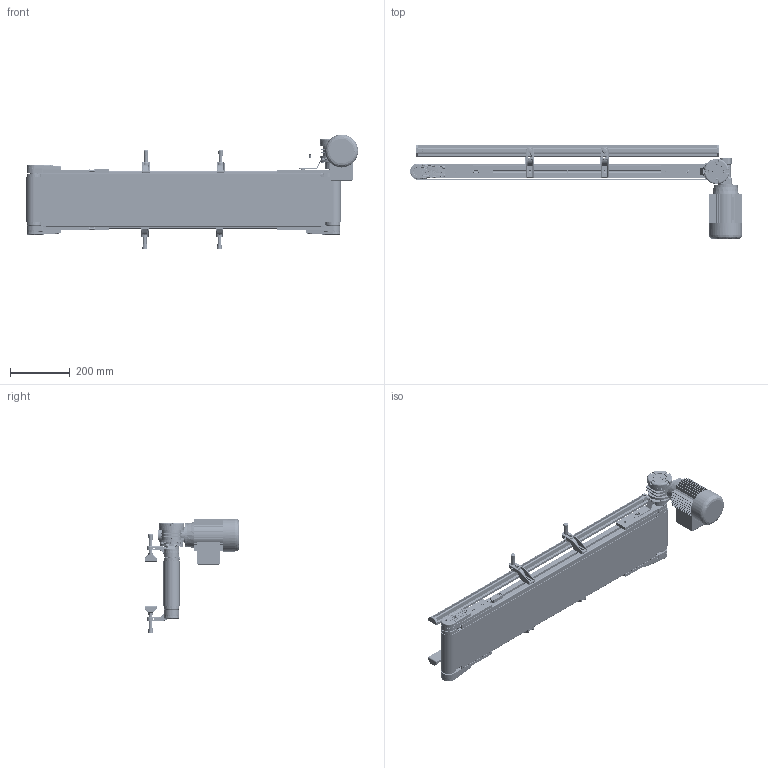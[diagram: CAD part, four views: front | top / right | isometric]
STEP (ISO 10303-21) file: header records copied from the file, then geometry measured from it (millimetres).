
FILE_DESCRIPTION (( 'STEP AP203' ), '1' );
FILE_NAME ('NASTRO_RETTILINEO_TAPPETO.step', '2026-05-05T07:18:08', ( 'Utente Windows' ), ( '' ), 'SwSTEP 2.0', 'SolidWorks 2024', '' );
FILE_SCHEMA (( 'CONFIG_CONTROL_DESIGN' ));
Length unit declared in the file: millimetre
Products named in the file (53): NASTRO_RETTILINEO_TAPPETO; 084.302.000 DADI ALUSIC 13x13-1_084.302.004; 084.802.061; VITI TSEI UNI 5933_M5x12 UNI 5933; 084.807.003_084.807.003<A macchina>; CHIAVETTE_A 5x5x40 UNI 6604-69; DADI ESAGONALI NORMALI UNI 5588_M6 UNI 5588; 084.711.007; 084.302.000 DADI ALUSIC 13x13-1_084.302.007; TELAIO_50_STANDARD_Default<A macchina>; 084.303.001; VITI TSEI UNI 5933 INOX_0412UNI5933A2; 14UNI7435; VITE_DADO_M5X12; VITI TE UNI 5739_M6x16 UNI 5739; VITI TSEI UNI 5933_M4x12 UNI 5933; SPONDA_Default<A macchina>; VITI TCEI UNI 5931_M6x12 UNI 5931; 084.802.065_Default<A macchina>; CH03P_DX; 084.803.018; VITI TCEI UNI 5931_M4x25 UNI 5931; VITE_RONDELLA_M8X20; 084.802.062; 084.811.004; 084.811.001; 084.711.006_L1; BLOCCO_TRAINO_50_STANDARD; LAMIERA_STANDARD; 084.711.010; 084.810.001; TAPPETO_STANDARD; RONDELLE FASCIA LARGA UNI 6593_5.4x20 UNI 6593; CHIAVETTE_A 5x5x20 UNI 6604-69; BLOCCO_RINVIO_50_STANDARD; 084.802.008; 084.302.000 DADI ALUSIC 13x13_084.302.004; BLOCCO_PERNO_50_RINVIO; 084.301.000 VITI ALUSIC_084.301.009; VITI TSEI UNI 5933_M4x10 UNI 5933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
Assembly tree (99 placements, depth 4):
  NASTRO_RETTILINEO_TAPPETO
    TAPPETO_STANDARD
    TELAIO_50_STANDARD_Default<A macchina>
    LAMIERA_STANDARD
    RULLO_50_Default<A macchina>  x2
    BLOCCO_PERNO_50_30
      084.810.001
      084.811.001
      RONDELLE FASCIA LARGA UNI 6593_5.4x20 UNI 6593
      084.301.000 VITI ALUSIC_084.301.009
      CHIAVETTE_A 5x5x40 UNI 6604-69
      CHIAVETTE_A 5x5x20 UNI 6604-69
      14UNI7435
    BLOCCO_TRAINO_50_STANDARD_30_DX
      084.807.003_084.807.003<A macchina>
      084.802.017_084.802.017
      084.301.000 VITI ALUSIC_084.301.003  x2
      084.302.000 DADI ALUSIC 13x13-1_084.302.004  x2
      BLOCCO_BRACCIO_CH03P_VF30P
        084.808.012
        084.802.062
        084.802.061
        VITI TE UNI 5739_M6x16 UNI 5739  x4
        084.803.018
        VITI TCEI UNI 5931_M6x12 UNI 5931  x4
      084.802.065_Default<A macchina>
      VITI TCEI UNI 5931_M4x25 UNI 5931  x2
    BLOCCO_PERNO_50_RINVIO  x3
      084.811.004
      084.810.001
    BLOCCO_TRAINO_50_STANDARD
      084.807.002_084.807.002
      084.802.017_084.802.017
      084.301.000 VITI ALUSIC_084.301.003  x2
      084.302.000 DADI ALUSIC 13x13-1_084.302.004  x2
      VITI TSEI UNI 5933_M4x12 UNI 5933  x4
      084.802.071
      VITI TSEI UNI 5933 INOX_0412UNI5933A2  x2
    BLOCCO_RINVIO_50_STANDARD  x2
      084.807.002_084.807.002
      084.802.017_084.802.017
      084.802.008
      084.301.000 VITI ALUSIC_084.301.003
      084.302.000 DADI ALUSIC 13x13_084.302.004
      VITI TSEI UNI 5933_M4x10 UNI 5933
      084.802.071
    SPONDA_Default<A macchina>  x2
    084.711.006_PER CAVA 8 PERNO ALTO 1  x4
      084.711.006_L1
      084.711.006_L2
      084.711.007
      084.711.005
      084.711.010
      DADI ESAGONALI NORMALI UNI 5588_M6 UNI 5588
    084.712.002  x4
    VITE_RONDELLA_M8X20  x3
      084.303.001
      084.301.000 VITI ALUSIC_084.301.003
    VITE_DADO_M5X12  x6
      084.302.000 DADI ALUSIC 13x13-1_084.302.007
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Bounding box: 1112 x 317 x 383.93 mm (x, y, z)
Volume: 5923751.1 mm3; surface area: 3370723.4 mm2
Topology: 143 solids, 149 shells, 7438 faces, 18966 edges, 11958 vertices
Faces by surface type: plane 3443, cylinder 2199, cone 647, bspline 602, torus 461, sphere 86
Entity records: 143586 total; most frequent: CARTESIAN_POINT 40655, ORIENTED_EDGE 20778, DIRECTION 19315, EDGE_CURVE 10389, AXIS2_PLACEMENT_3D 6735, VERTEX_POINT 6637, VECTOR 5845, LINE 5845
